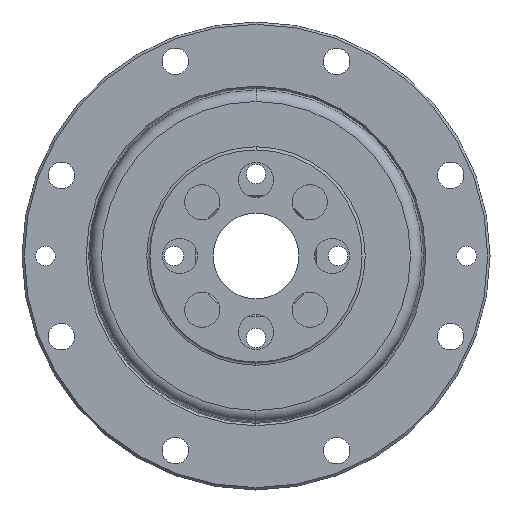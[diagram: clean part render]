
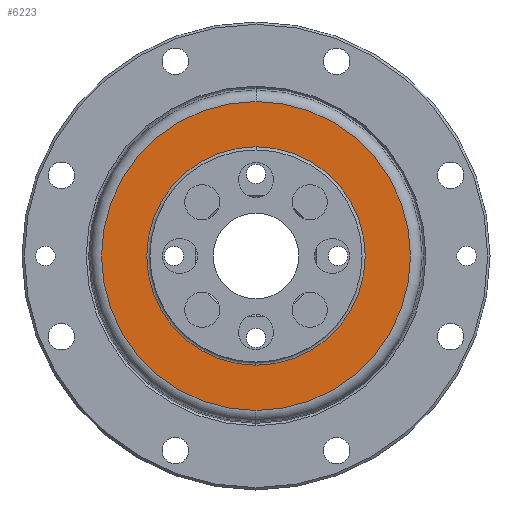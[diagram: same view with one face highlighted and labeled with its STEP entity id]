
A CAD part, left-side view. The second image highlights one B-rep face of the part: STEP entity #6223.
In plain terms, the highlighted planar face has unit normal (-1, 0, 0).
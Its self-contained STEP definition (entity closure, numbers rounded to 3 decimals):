
#29 = PLANE ( 'NONE',  #2138 ) ;
#278 = ORIENTED_EDGE ( 'NONE', *, *, #1429, .T. ) ;
#507 = EDGE_CURVE ( 'NONE', #7228, #9205, #4732, .T. ) ;
#720 = DIRECTION ( 'NONE',  ( -1., 0., 0. ) ) ;
#993 = VERTEX_POINT ( 'NONE', #5736 ) ;
#1130 = DIRECTION ( 'NONE',  ( 0., 0., 1. ) ) ;
#1352 = DIRECTION ( 'NONE',  ( -1., 0., 0. ) ) ;
#1429 = EDGE_CURVE ( 'NONE', #993, #6468, #7804, .T. ) ;
#1921 = EDGE_LOOP ( 'NONE', ( #278, #7057 ) ) ;
#2138 = AXIS2_PLACEMENT_3D ( 'NONE', #6588, #2270, #7300 ) ;
#2181 = AXIS2_PLACEMENT_3D ( 'NONE', #8246, #3924, #8944 ) ;
#2270 = DIRECTION ( 'NONE',  ( 1., 0., 0. ) ) ;
#2273 = EDGE_CURVE ( 'NONE', #9205, #7228, #7859, .T. ) ;
#2322 = EDGE_CURVE ( 'NONE', #6468, #993, #3588, .T. ) ;
#2564 = DIRECTION ( 'NONE',  ( -1., 0., 0. ) ) ;
#2706 = FACE_OUTER_BOUND ( 'NONE', #1921, .T. ) ;
#2779 = AXIS2_PLACEMENT_3D ( 'NONE', #5709, #1352, #6413 ) ;
#3588 = CIRCLE ( 'NONE', #4606, 19.812 ) ;
#3924 = DIRECTION ( 'NONE',  ( -1., 0., 0. ) ) ;
#4174 = CARTESIAN_POINT ( 'NONE',  ( 1.4, 0., 0. ) ) ;
#4456 = CARTESIAN_POINT ( 'NONE',  ( 1.4, 0., 14. ) ) ;
#4606 = AXIS2_PLACEMENT_3D ( 'NONE', #5080, #720, #5815 ) ;
#4612 = FACE_BOUND ( 'NONE', #7332, .T. ) ;
#4732 = CIRCLE ( 'NONE', #5587, 14. ) ;
#5080 = CARTESIAN_POINT ( 'NONE',  ( 1.4, 0., 0. ) ) ;
#5587 = AXIS2_PLACEMENT_3D ( 'NONE', #4174, #2564, #1130 ) ;
#5709 = CARTESIAN_POINT ( 'NONE',  ( 1.4, 0., 0. ) ) ;
#5736 = CARTESIAN_POINT ( 'NONE',  ( 1.4, 0., 19.812 ) ) ;
#5815 = DIRECTION ( 'NONE',  ( 0., 0., 1. ) ) ;
#6223 = ADVANCED_FACE ( 'NONE', ( #4612, #2706 ), #29, .F. ) ;
#6413 = DIRECTION ( 'NONE',  ( 0., 0., 1. ) ) ;
#6468 = VERTEX_POINT ( 'NONE', #6906 ) ;
#6588 = CARTESIAN_POINT ( 'NONE',  ( 1.4, 19.812, 0. ) ) ;
#6906 = CARTESIAN_POINT ( 'NONE',  ( 1.4, 0., -19.812 ) ) ;
#7057 = ORIENTED_EDGE ( 'NONE', *, *, #2322, .T. ) ;
#7228 = VERTEX_POINT ( 'NONE', #8726 ) ;
#7300 = DIRECTION ( 'NONE',  ( 0., 0., -1. ) ) ;
#7332 = EDGE_LOOP ( 'NONE', ( #8142, #8629 ) ) ;
#7804 = CIRCLE ( 'NONE', #2779, 19.812 ) ;
#7859 = CIRCLE ( 'NONE', #2181, 14. ) ;
#8142 = ORIENTED_EDGE ( 'NONE', *, *, #2273, .F. ) ;
#8246 = CARTESIAN_POINT ( 'NONE',  ( 1.4, 0., 0. ) ) ;
#8629 = ORIENTED_EDGE ( 'NONE', *, *, #507, .F. ) ;
#8726 = CARTESIAN_POINT ( 'NONE',  ( 1.4, 0., -14. ) ) ;
#8944 = DIRECTION ( 'NONE',  ( 0., 0., 1. ) ) ;
#9205 = VERTEX_POINT ( 'NONE', #4456 ) ;
